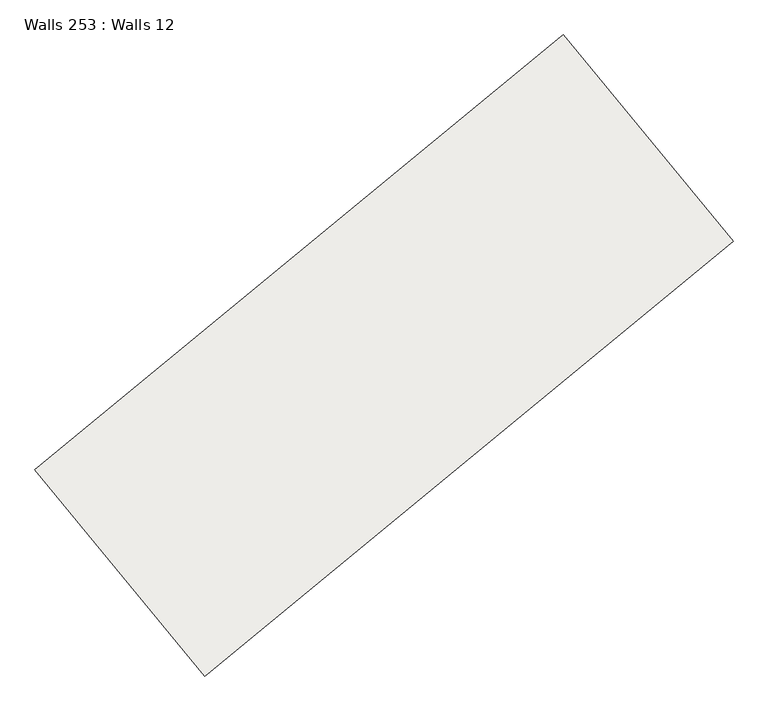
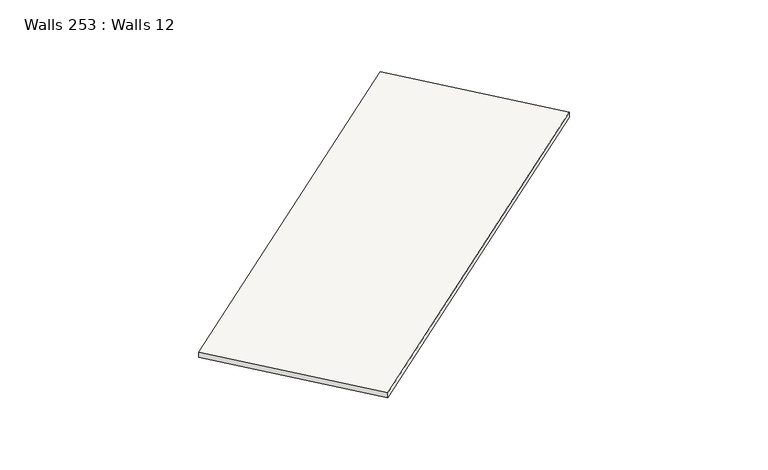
"""IFC4 building model written with IfcOpenShell, lengths in millimetres: slab geometry, Walls 253 : Walls 12."""

from ifc_helpers import new_model, si_unit, frame, origin, place, context, project, spatial, polyline, outline, extrude, source, transform, mapped, element, save


def walls_253_walls_12_c492f084(model_context):
    return source(origin(), model_context, "Body", "SweptSolid", [
        extrude(outline(polyline([(-50.0, 0.0), (50.0, 0.0), (-20.0, -8699.999999), (-120.0, -8699.999999), (-50.0, 0.0)])), frame((-264026.3440146, -424534.8305027, 634350.0), z_axis=(-0.6353361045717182, 0.7722357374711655, 0.0), x_axis=(0.0, 0.0, 1.0)), (0.0, 0.0, 1.0), 3400.0),
    ])


if __name__ == "__main__":
    model = new_model("IFC4")
    model_context = context("Model", 3, world=origin())
    ifc_project = project(units=[si_unit("LENGTHUNIT", "METRE", prefix="MILLI")], contexts=[model_context])
    site = spatial("IfcSite", under=ifc_project)
    building = spatial("IfcBuilding", under=site)
    placement = place(None, origin())
    walls_253_walls_12_shape = walls_253_walls_12_c492f084(model_context)
    element("IfcSlab", 1, ObjectType="Walls 253 : Walls 12", at=placement, inside=building, context=model_context, shape_type="MappedRepresentation", body=[
        mapped(walls_253_walls_12_shape, transform((0.0, 0.0, 0.0), x_axis=(1.0, 0.0, 0.0), y_axis=(0.0, 1.0, 0.0), z_axis=(0.0, 0.0, 1.0))),
    ])
    save(model, "model.ifc")
